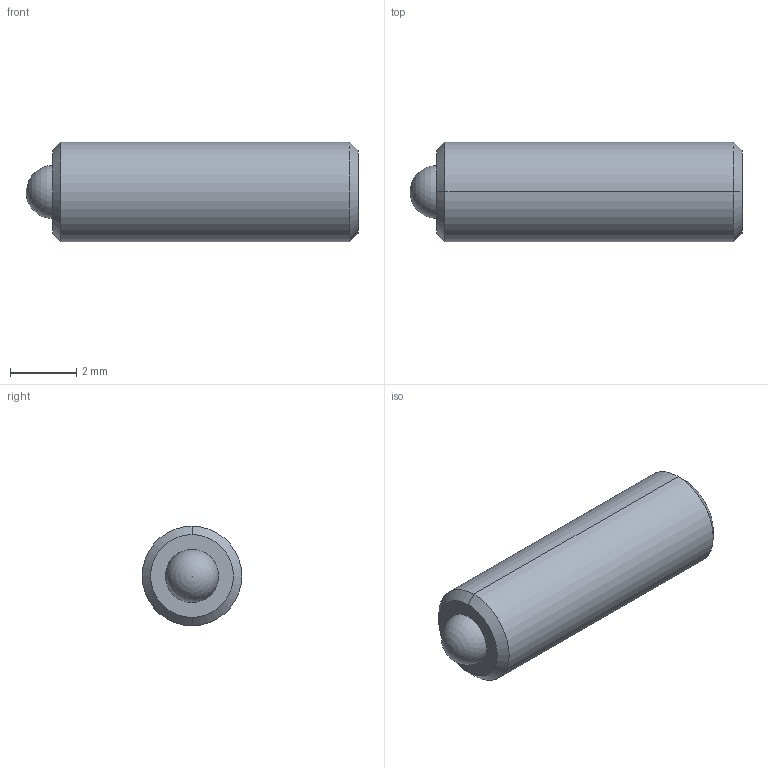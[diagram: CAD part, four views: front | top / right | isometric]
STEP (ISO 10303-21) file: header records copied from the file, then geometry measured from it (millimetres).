
FILE_DESCRIPTION (( 'STEP AP214' ), '1' );
FILE_NAME ('TS3-25-10.STEP', '2013-02-13T16:11:05', ( 'workpc' ), ( 'Microsoft' ), 'SwSTEP 2.0', 'SolidWorks 2013', '' );
FILE_SCHEMA (( 'AUTOMOTIVE_DESIGN' ));
Length unit declared in the file: millimetre
Products named in the file (1): TS3-25-10
Bounding box: 10 x 3 x 3 mm (x, y, z)
Volume: 61.1 mm3; surface area: 120.3 mm2
Topology: 2 solids, 2 shells, 20 faces, 45 edges, 29 vertices
Faces by surface type: plane 10, cylinder 4, cone 4, sphere 2
Entity records: 587 total; most frequent: DIRECTION 96, CARTESIAN_POINT 87, ORIENTED_EDGE 80, EDGE_CURVE 40, AXIS2_PLACEMENT_3D 35, VECTOR 26, VERTEX_POINT 26, LINE 26
